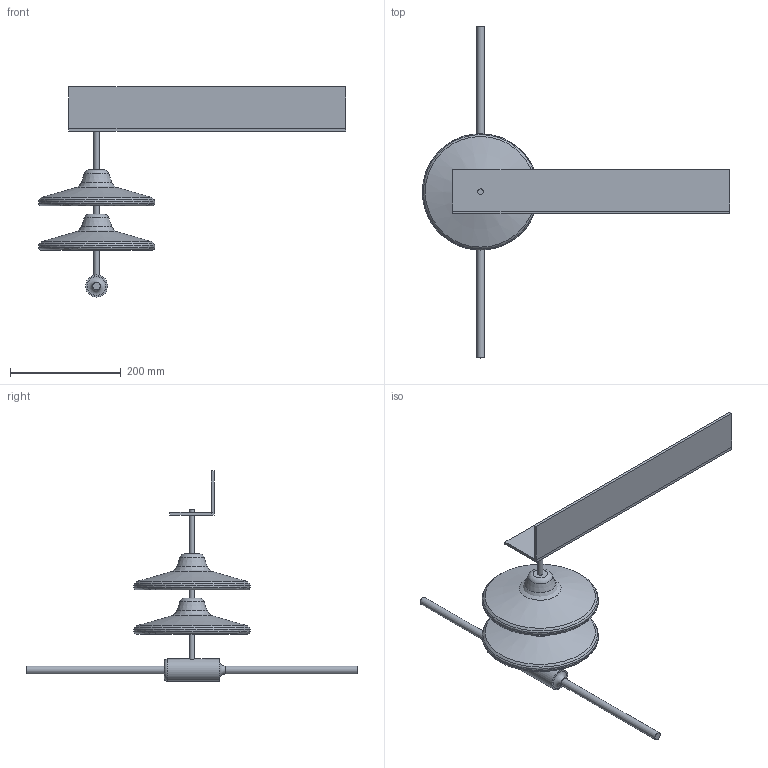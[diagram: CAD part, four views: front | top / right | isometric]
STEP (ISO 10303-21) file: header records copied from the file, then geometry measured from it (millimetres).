
FILE_DESCRIPTION((''),'2;1');
FILE_NAME('','2019-12-18T00:00:00',(''),(''),'','','');
FILE_SCHEMA (('CONFIG_CONTROL_DESIGN'));
Length unit declared in the file: millimetre
Products named in the file (6): conductor003; Cut004; conductor002; Cut003; Cut002; Fillet
Bounding box: 555 x 600 x 380 mm (x, y, z)
Volume: 1613376.6 mm3; surface area: 370971.6 mm2
Topology: 6 solids, 6 shells, 66 faces, 115 edges, 68 vertices
Faces by surface type: plane 31, cylinder 11, torus 10, cone 8, bspline 4, revolution 2
Full cylindrical faces by diameter (mm): 10 x6, 14 x2, 40 x1, 210 x2
Entity records: 5150 total; most frequent: CARTESIAN_POINT 2234, DIRECTION 453, ORIENTED_EDGE 230, PCURVE 230, DEFINITIONAL_REPRESENTATION 230, LINE 202, VECTOR 202, EDGE_CURVE 115
